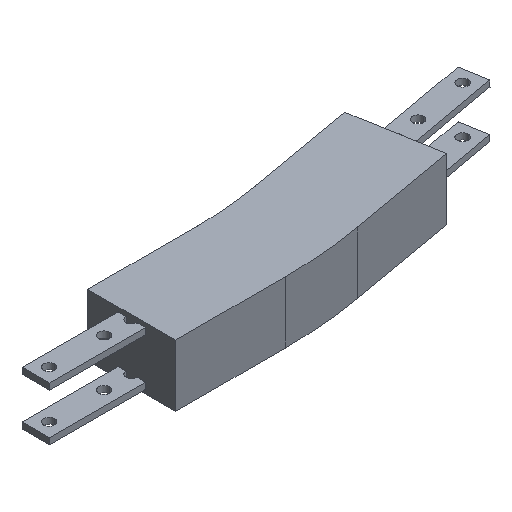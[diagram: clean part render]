
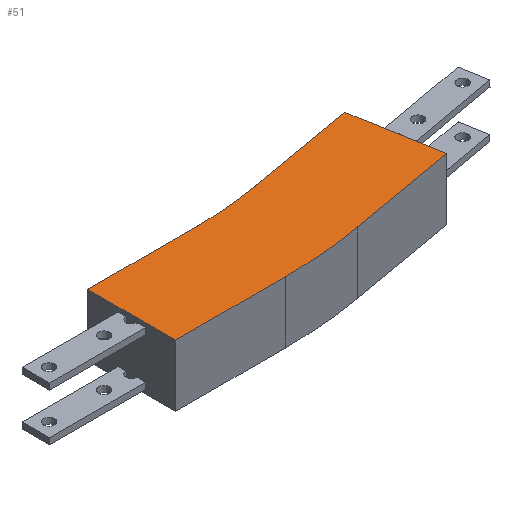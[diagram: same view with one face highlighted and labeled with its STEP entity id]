
A CAD part, isometric view. The second image highlights one B-rep face of the part: STEP entity #51.
In plain terms, the highlighted planar face has unit normal (0, 0, 1).
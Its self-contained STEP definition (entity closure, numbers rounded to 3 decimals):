
#8 = EDGE_CURVE ( 'NONE', #64, #9, #781, .T. ) ;
#9 = VERTEX_POINT ( 'NONE', #776 ) ;
#46 = ORIENTED_EDGE ( 'NONE', *, *, #284, .T. ) ;
#48 = ORIENTED_EDGE ( 'NONE', *, *, #441, .T. ) ;
#49 = ORIENTED_EDGE ( 'NONE', *, *, #63, .T. ) ;
#50 = EDGE_LOOP ( 'NONE', ( #90, #91, #86, #48, #49, #88, #89, #46 ) ) ;
#51 = ADVANCED_FACE ( 'NONE', ( #741 ), #740, .T. ) ;
#60 = EDGE_CURVE ( 'NONE', #68, #61, #729, .T. ) ;
#61 = VERTEX_POINT ( 'NONE', #815 ) ;
#63 = EDGE_CURVE ( 'NONE', #442, #64, #814, .T. ) ;
#64 = VERTEX_POINT ( 'NONE', #810 ) ;
#68 = VERTEX_POINT ( 'NONE', #803 ) ;
#80 = EDGE_CURVE ( 'NONE', #9, #81, #703, .T. ) ;
#81 = VERTEX_POINT ( 'NONE', #699 ) ;
#86 = ORIENTED_EDGE ( 'NONE', *, *, #615, .T. ) ;
#88 = ORIENTED_EDGE ( 'NONE', *, *, #8, .T. ) ;
#89 = ORIENTED_EDGE ( 'NONE', *, *, #80, .T. ) ;
#90 = ORIENTED_EDGE ( 'NONE', *, *, #60, .T. ) ;
#91 = ORIENTED_EDGE ( 'NONE', *, *, #92, .T. ) ;
#92 = EDGE_CURVE ( 'NONE', #61, #616, #832, .T. ) ;
#284 = EDGE_CURVE ( 'NONE', #81, #68, #1251, .T. ) ;
#441 = EDGE_CURVE ( 'NONE', #617, #442, #1396, .T. ) ;
#442 = VERTEX_POINT ( 'NONE', #1390 ) ;
#615 = EDGE_CURVE ( 'NONE', #616, #617, #1515, .T. ) ;
#616 = VERTEX_POINT ( 'NONE', #1784 ) ;
#617 = VERTEX_POINT ( 'NONE', #1827 ) ;
#699 = CARTESIAN_POINT ( 'NONE',  ( 2993.2, -2375., 238.7 ) ) ;
#700 = DIRECTION ( 'NONE',  ( -1., 0., 0. ) ) ;
#701 = VECTOR ( 'NONE', #700, 1000. ) ;
#702 = CARTESIAN_POINT ( 'NONE',  ( 3098.998, -2375., 238.7 ) ) ;
#703 = LINE ( 'NONE', #702, #701 ) ;
#729 = LINE ( 'NONE', #818, #817 ) ;
#735 = DIRECTION ( 'NONE',  ( 0., -1., 0. ) ) ;
#736 = DIRECTION ( 'NONE',  ( 0., 0., 1. ) ) ;
#737 = CARTESIAN_POINT ( 'NONE',  ( 3098.998, -2401.874, 238.7 ) ) ;
#738 = AXIS2_PLACEMENT_3D ( 'NONE', #737, #736, #735 ) ;
#740 = PLANE ( 'NONE',  #738 ) ;
#741 = FACE_OUTER_BOUND ( 'NONE', #50, .T. ) ;
#776 = CARTESIAN_POINT ( 'NONE',  ( 3073.2, -2375., 238.7 ) ) ;
#777 = DIRECTION ( 'NONE',  ( -1., 0., 0. ) ) ;
#778 = DIRECTION ( 'NONE',  ( 0., 0., -1. ) ) ;
#779 = CARTESIAN_POINT ( 'NONE',  ( 3073.2, -2107., 238.7 ) ) ;
#780 = AXIS2_PLACEMENT_3D ( 'NONE', #779, #778, #777 ) ;
#781 = CIRCLE ( 'NONE', #780, 268. ) ;
#803 = CARTESIAN_POINT ( 'NONE',  ( 2993.2, -2439., 238.7 ) ) ;
#810 = CARTESIAN_POINT ( 'NONE',  ( 3119.738, -2370.928, 238.7 ) ) ;
#811 = DIRECTION ( 'NONE',  ( -0.985, -0.174, 0. ) ) ;
#812 = VECTOR ( 'NONE', #811, 1000. ) ;
#813 = CARTESIAN_POINT ( 'NONE',  ( 3198.522, -2357.037, 238.7 ) ) ;
#814 = LINE ( 'NONE', #813, #812 ) ;
#815 = CARTESIAN_POINT ( 'NONE',  ( 3073.2, -2439., 238.7 ) ) ;
#816 = DIRECTION ( 'NONE',  ( 1., 0., 0. ) ) ;
#817 = VECTOR ( 'NONE', #816, 1000. ) ;
#818 = CARTESIAN_POINT ( 'NONE',  ( 3098.998, -2439., 238.7 ) ) ;
#828 = DIRECTION ( 'NONE',  ( -1., 0., 0. ) ) ;
#829 = DIRECTION ( 'NONE',  ( 0., 0., 1. ) ) ;
#830 = CARTESIAN_POINT ( 'NONE',  ( 3073.2, -2107., 238.7 ) ) ;
#831 = AXIS2_PLACEMENT_3D ( 'NONE', #830, #829, #828 ) ;
#832 = CIRCLE ( 'NONE', #831, 332. ) ;
#1214 = DIRECTION ( 'NONE',  ( 0., -1., 0. ) ) ;
#1215 = VECTOR ( 'NONE', #1214, 1000. ) ;
#1216 = CARTESIAN_POINT ( 'NONE',  ( 2993.2, -2401.874, 238.7 ) ) ;
#1251 = LINE ( 'NONE', #1216, #1215 ) ;
#1390 = CARTESIAN_POINT ( 'NONE',  ( 3198.522, -2357.037, 238.7 ) ) ;
#1391 = DIRECTION ( 'NONE',  ( -0.174, 0.985, 0. ) ) ;
#1392 = VECTOR ( 'NONE', #1391, 1000. ) ;
#1393 = CARTESIAN_POINT ( 'NONE',  ( 3209.636, -2420.064, 238.7 ) ) ;
#1396 = LINE ( 'NONE', #1393, #1392 ) ;
#1509 = DIRECTION ( 'NONE',  ( 0.985, 0.174, 0. ) ) ;
#1510 = VECTOR ( 'NONE', #1509, 1000. ) ;
#1511 = CARTESIAN_POINT ( 'NONE',  ( 3130.851, -2433.956, 238.7 ) ) ;
#1515 = LINE ( 'NONE', #1511, #1510 ) ;
#1784 = CARTESIAN_POINT ( 'NONE',  ( 3130.851, -2433.956, 238.7 ) ) ;
#1827 = CARTESIAN_POINT ( 'NONE',  ( 3209.636, -2420.064, 238.7 ) ) ;
